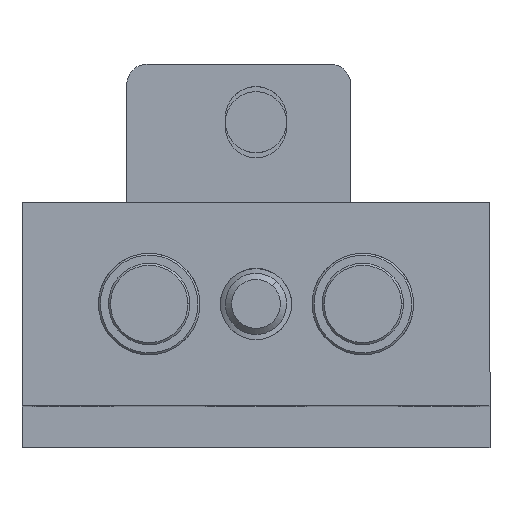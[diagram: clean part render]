
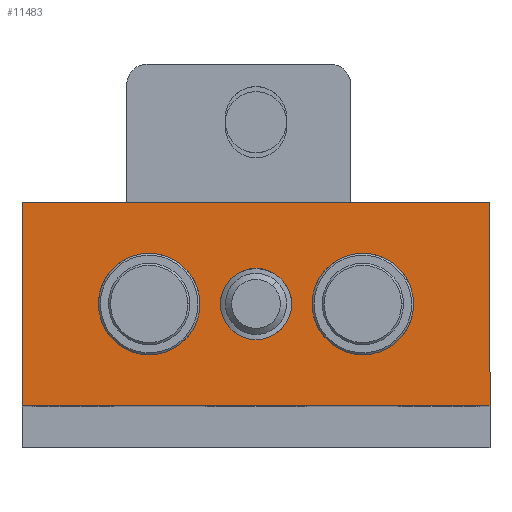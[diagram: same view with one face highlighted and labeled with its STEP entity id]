
A CAD part, top view. The second image highlights one B-rep face of the part: STEP entity #11483.
In plain terms, the highlighted planar face has unit normal (0, 0, 1).
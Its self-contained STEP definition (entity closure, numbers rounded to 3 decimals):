
#106 = CIRCLE ( 'NONE', #6941, 4.99 ) ;
#160 = DIRECTION ( 'NONE',  ( 0., 1., 0. ) ) ;
#176 = CIRCLE ( 'NONE', #6087, 4.99 ) ;
#186 = CARTESIAN_POINT ( 'NONE',  ( 23., 10., 23. ) ) ;
#424 = ORIENTED_EDGE ( 'NONE', *, *, #2177, .T. ) ;
#1104 = VERTEX_POINT ( 'NONE', #8664 ) ;
#1187 = LINE ( 'NONE', #3443, #1304 ) ;
#1304 = VECTOR ( 'NONE', #2294, 1000. ) ;
#1455 = DIRECTION ( 'NONE',  ( 0., 0., 1. ) ) ;
#1467 = CARTESIAN_POINT ( 'NONE',  ( -10.5, -4.99, 23. ) ) ;
#1480 = CARTESIAN_POINT ( 'NONE',  ( 10.5, -4.99, 23. ) ) ;
#1812 = VECTOR ( 'NONE', #3409, 1000. ) ;
#1928 = LINE ( 'NONE', #6518, #1812 ) ;
#1953 = DIRECTION ( 'NONE',  ( 0., 1., 0. ) ) ;
#2131 = EDGE_CURVE ( 'NONE', #5849, #7935, #10185, .T. ) ;
#2175 = EDGE_CURVE ( 'NONE', #7935, #5849, #9773, .T. ) ;
#2177 = EDGE_CURVE ( 'NONE', #7807, #2196, #10119, .T. ) ;
#2196 = VERTEX_POINT ( 'NONE', #6093 ) ;
#2294 = DIRECTION ( 'NONE',  ( 1., 0., 0. ) ) ;
#2539 = EDGE_CURVE ( 'NONE', #10802, #2196, #1928, .T. ) ;
#2583 = EDGE_CURVE ( 'NONE', #5902, #6290, #176, .T. ) ;
#2840 = AXIS2_PLACEMENT_3D ( 'NONE', #3551, #1455, #6599 ) ;
#3026 = CARTESIAN_POINT ( 'NONE',  ( 0., 0., 23. ) ) ;
#3155 = DIRECTION ( 'NONE',  ( 0., 1., 0. ) ) ;
#3409 = DIRECTION ( 'NONE',  ( 0., -1., 0. ) ) ;
#3443 = CARTESIAN_POINT ( 'NONE',  ( 23., 10., 23. ) ) ;
#3551 = CARTESIAN_POINT ( 'NONE',  ( 10.5, 0., 23. ) ) ;
#3638 = EDGE_CURVE ( 'NONE', #11501, #7807, #6076, .T. ) ;
#3792 = AXIS2_PLACEMENT_3D ( 'NONE', #8507, #8537, #8540 ) ;
#4015 = AXIS2_PLACEMENT_3D ( 'NONE', #11560, #11661, #11726 ) ;
#4213 = CARTESIAN_POINT ( 'NONE',  ( 10.5, 0., 23. ) ) ;
#4699 = ORIENTED_EDGE ( 'NONE', *, *, #9813, .F. ) ;
#4844 = CARTESIAN_POINT ( 'NONE',  ( -23., 10., 23. ) ) ;
#5060 = DIRECTION ( 'NONE',  ( 0., 1., 0. ) ) ;
#5449 = CARTESIAN_POINT ( 'NONE',  ( 0., -3.5, 23. ) ) ;
#5669 = CARTESIAN_POINT ( 'NONE',  ( 0., 3.5, 23. ) ) ;
#5766 = CARTESIAN_POINT ( 'NONE',  ( -23., -10., 23. ) ) ;
#5849 = VERTEX_POINT ( 'NONE', #5449 ) ;
#5852 = VERTEX_POINT ( 'NONE', #1467 ) ;
#5902 = VERTEX_POINT ( 'NONE', #1480 ) ;
#6076 = LINE ( 'NONE', #4844, #6150 ) ;
#6087 = AXIS2_PLACEMENT_3D ( 'NONE', #4213, #10240, #3155 ) ;
#6093 = CARTESIAN_POINT ( 'NONE',  ( 23., -10., 23. ) ) ;
#6100 = CARTESIAN_POINT ( 'NONE',  ( -10.5, 0., 23. ) ) ;
#6136 = DIRECTION ( 'NONE',  ( 1., 0., 0. ) ) ;
#6150 = VECTOR ( 'NONE', #10870, 1000. ) ;
#6260 = FACE_BOUND ( 'NONE', #6544, .T. ) ;
#6268 = FACE_BOUND ( 'NONE', #8625, .T. ) ;
#6290 = VERTEX_POINT ( 'NONE', #12555 ) ;
#6330 = AXIS2_PLACEMENT_3D ( 'NONE', #3026, #9104, #1953 ) ;
#6369 = AXIS2_PLACEMENT_3D ( 'NONE', #10418, #7170, #160 ) ;
#6415 = FACE_BOUND ( 'NONE', #8561, .T. ) ;
#6518 = CARTESIAN_POINT ( 'NONE',  ( 23., 10., 23. ) ) ;
#6544 = EDGE_LOOP ( 'NONE', ( #10414, #4699 ) ) ;
#6599 = DIRECTION ( 'NONE',  ( 0., 1., 0. ) ) ;
#6821 = ORIENTED_EDGE ( 'NONE', *, *, #2131, .F. ) ;
#6941 = AXIS2_PLACEMENT_3D ( 'NONE', #6100, #12126, #5060 ) ;
#7002 = ORIENTED_EDGE ( 'NONE', *, *, #2175, .F. ) ;
#7170 = DIRECTION ( 'NONE',  ( 0., 0., 1. ) ) ;
#7573 = ORIENTED_EDGE ( 'NONE', *, *, #12679, .F. ) ;
#7807 = VERTEX_POINT ( 'NONE', #5766 ) ;
#7836 = FACE_OUTER_BOUND ( 'NONE', #12037, .T. ) ;
#7935 = VERTEX_POINT ( 'NONE', #5669 ) ;
#7944 = CARTESIAN_POINT ( 'NONE',  ( -23., 10., 23. ) ) ;
#8006 = EDGE_CURVE ( 'NONE', #11501, #10802, #1187, .T. ) ;
#8105 = CIRCLE ( 'NONE', #2840, 4.99 ) ;
#8177 = PLANE ( 'NONE',  #3792 ) ;
#8289 = CIRCLE ( 'NONE', #4015, 4.99 ) ;
#8507 = CARTESIAN_POINT ( 'NONE',  ( 23., 10., 23. ) ) ;
#8537 = DIRECTION ( 'NONE',  ( 0., 0., -1. ) ) ;
#8540 = DIRECTION ( 'NONE',  ( 0., -1., 0. ) ) ;
#8561 = EDGE_LOOP ( 'NONE', ( #7002, #6821 ) ) ;
#8625 = EDGE_LOOP ( 'NONE', ( #7573, #8709 ) ) ;
#8664 = CARTESIAN_POINT ( 'NONE',  ( -10.5, 4.99, 23. ) ) ;
#8709 = ORIENTED_EDGE ( 'NONE', *, *, #2583, .F. ) ;
#9104 = DIRECTION ( 'NONE',  ( 0., 0., 1. ) ) ;
#9209 = ORIENTED_EDGE ( 'NONE', *, *, #3638, .T. ) ;
#9763 = VECTOR ( 'NONE', #6136, 1000. ) ;
#9773 = CIRCLE ( 'NONE', #6330, 3.5 ) ;
#9813 = EDGE_CURVE ( 'NONE', #5852, #1104, #106, .T. ) ;
#10119 = LINE ( 'NONE', #10124, #9763 ) ;
#10124 = CARTESIAN_POINT ( 'NONE',  ( 23., -10., 23. ) ) ;
#10185 = CIRCLE ( 'NONE', #6369, 3.5 ) ;
#10240 = DIRECTION ( 'NONE',  ( 0., 0., 1. ) ) ;
#10414 = ORIENTED_EDGE ( 'NONE', *, *, #11212, .F. ) ;
#10418 = CARTESIAN_POINT ( 'NONE',  ( 0., 0., 23. ) ) ;
#10703 = ORIENTED_EDGE ( 'NONE', *, *, #8006, .F. ) ;
#10802 = VERTEX_POINT ( 'NONE', #186 ) ;
#10870 = DIRECTION ( 'NONE',  ( 0., -1., 0. ) ) ;
#10891 = ORIENTED_EDGE ( 'NONE', *, *, #2539, .F. ) ;
#11212 = EDGE_CURVE ( 'NONE', #1104, #5852, #8289, .T. ) ;
#11483 = ADVANCED_FACE ( 'NONE', ( #6260, #6268, #6415, #7836 ), #8177, .F. ) ;
#11501 = VERTEX_POINT ( 'NONE', #7944 ) ;
#11560 = CARTESIAN_POINT ( 'NONE',  ( -10.5, 0., 23. ) ) ;
#11661 = DIRECTION ( 'NONE',  ( 0., 0., 1. ) ) ;
#11726 = DIRECTION ( 'NONE',  ( 0., 1., 0. ) ) ;
#12037 = EDGE_LOOP ( 'NONE', ( #424, #10891, #10703, #9209 ) ) ;
#12126 = DIRECTION ( 'NONE',  ( 0., 0., 1. ) ) ;
#12555 = CARTESIAN_POINT ( 'NONE',  ( 10.5, 4.99, 23. ) ) ;
#12679 = EDGE_CURVE ( 'NONE', #6290, #5902, #8105, .T. ) ;
